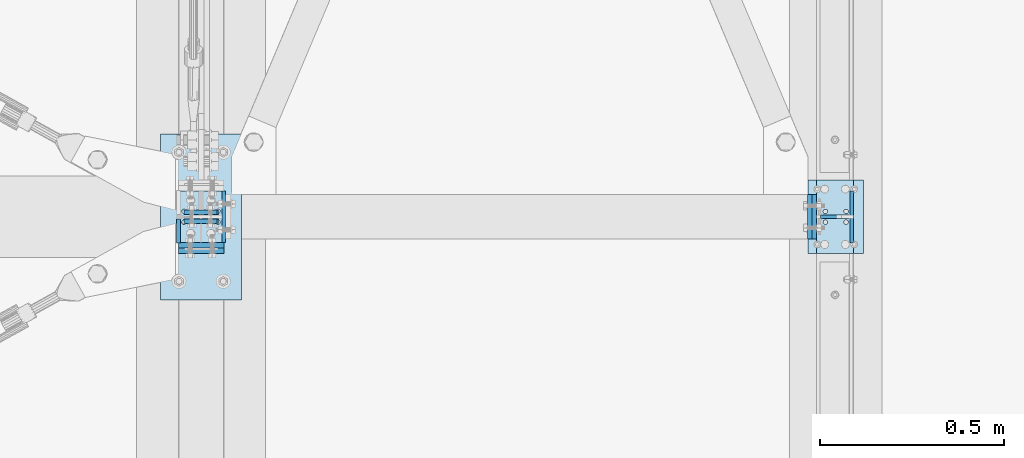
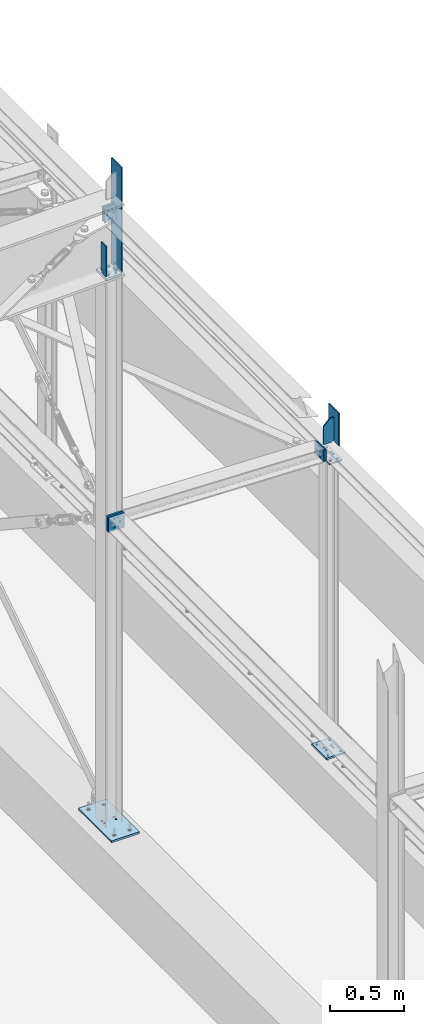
# One storey, part 46 of 476: 14 plates, 65 openings.
"""IFC2X3 building model written with IfcOpenShell, lengths in millimetres."""

import ifcopenshell
import ifcopenshell.guid

model = None  # the IFC model being written
_history = None  # IfcOwnerHistory: only IFC2X3 demands one
_inside = {}  # id of a spatial element -> (the spatial element, [elements in it])
_under = {}  # id of a project, library or spatial element -> (it, [spatial elements below it])
_declared = {}  # id of a project -> (the project, [libraries it declares])
_typed = {}  # id of a type object -> (the type object, [elements of that type])
_made_of = {}  # id of a material, layer set ... -> (it, [elements and type objects made of it])


def new_model(schema):
    """Start an empty IFC model of exactly this schema.

    Asked for "IFC4X3", IfcOpenShell would pick the latest addendum, in which some entities
    have other attributes; the version numbers below select the first issue.
    IFC2X3 requires an IfcOwnerHistory on every rooted entity: one is made here for all.
    """
    global model, _history
    if schema == "IFC4X3":
        model = ifcopenshell.file(schema_version=(4, 3, 0, 0))
    else:
        model = ifcopenshell.file(schema=schema)
    _inside.clear()
    _under.clear()
    _declared.clear()
    _typed.clear()
    _made_of.clear()
    _history = None
    if model.schema == "IFC2X3":
        org = make("IfcOrganization", Name="unknown")
        user = make(
            "IfcPersonAndOrganization",
            ThePerson=make("IfcPerson", FamilyName="unknown"),
            TheOrganization=org,
        )
        app = make(
            "IfcApplication",
            ApplicationDeveloper=org,
            Version="unknown",
            ApplicationFullName="unknown",
            ApplicationIdentifier="unknown",
        )
        _history = make(
            "IfcOwnerHistory",
            OwningUser=user,
            OwningApplication=app,
            ChangeAction="ADDED",
            CreationDate=0,
        )
    return model


def make(cls, **values):
    """One entity of the class cls with the attributes given. An attribute that is None is left unset."""
    return model.create_entity(
        cls, **{name: value for name, value in values.items() if value is not None}
    )


def entity(cls, *values):
    """Any entity or typed value of the class cls, its attributes in the order of the schema. None: left unset."""
    e = model.create_entity(cls)
    for i, value in enumerate(values):
        if value is not None:
            e[i] = value
    return e


def rooted(cls, **values):
    """An entity with a GlobalId (a new one), such as an element, a storey or a relation."""
    return make(cls, GlobalId=ifcopenshell.guid.new(), OwnerHistory=_history, **values)


def si_unit(unit_type, name, prefix=None):
    """IfcSIUnit, for example si_unit("LENGTHUNIT", "METRE", prefix="MILLI")."""
    return make("IfcSIUnit", UnitType=unit_type, Prefix=prefix, Name=name)


def converted_unit(unit_type, name, factor, base, dimensions=None, offset=None):
    """IfcConversionBasedUnit, such as the inch: factor (a typed value) times the base unit."""
    return make(
        "IfcConversionBasedUnit"
        if offset is None
        else "IfcConversionBasedUnitWithOffset",
        ConversionOffset=offset,
        Dimensions=None
        if dimensions is None
        else entity("IfcDimensionalExponents", *dimensions),
        UnitType=unit_type,
        Name=name,
        ConversionFactor=make(
            "IfcMeasureWithUnit", ValueComponent=factor, UnitComponent=base
        ),
    )


def assignment(units):
    """IfcUnitAssignment: the units of a project."""
    return None if units is None else make("IfcUnitAssignment", Units=units)


def point(xyz):
    """IfcCartesianPoint."""
    return None if xyz is None else make("IfcCartesianPoint", Coordinates=xyz)


def direction(xyz):
    """IfcDirection."""
    return None if xyz is None else make("IfcDirection", DirectionRatios=xyz)


def frame(location, z_axis=None, x_axis=None):
    """IfcAxis2Placement3D, a coordinate frame: its origin and axes. An axis left out is left unset."""
    return make(
        "IfcAxis2Placement3D",
        Location=point(location),
        Axis=direction(z_axis),
        RefDirection=direction(x_axis),
    )


def frame_2d(location, x_axis=None):
    """IfcAxis2Placement2D, a coordinate frame in the plane: its origin and x axis."""
    return make(
        "IfcAxis2Placement2D", Location=point(location), RefDirection=direction(x_axis)
    )


def origin():
    """The frame at (0, 0, 0) with its axes left unset."""
    return frame((0.0, 0.0, 0.0))


def origin_with_axes():
    """The frame at (0, 0, 0) with the z axis (0, 0, 1) and the x axis (1, 0, 0) written out."""
    return frame((0.0, 0.0, 0.0), z_axis=(0.0, 0.0, 1.0), x_axis=(1.0, 0.0, 0.0))


def origin_2d_with_axis():
    """The frame at (0, 0) in the plane with the x axis (1, 0) written out."""
    return frame_2d((0.0, 0.0), x_axis=(1.0, 0.0))


def place(relative_to, where):
    """IfcLocalPlacement: puts the frame where relative to a parent placement (None: the world)."""
    return make(
        "IfcLocalPlacement", PlacementRelTo=relative_to, RelativePlacement=where
    )


def context(
    kind, dimensions, precision=None, world=None, true_north=None, identifier=None
):
    """IfcGeometricRepresentationContext, for example the 3D "Model" context."""
    return make(
        "IfcGeometricRepresentationContext",
        ContextIdentifier=identifier,
        ContextType=kind,
        CoordinateSpaceDimension=dimensions,
        Precision=precision,
        WorldCoordinateSystem=world,
        TrueNorth=true_north,
    )


def project(units=None, contexts=None):
    """IfcProject with its units and contexts."""
    return rooted(
        "IfcProject",
        Name="project",
        RepresentationContexts=contexts,
        UnitsInContext=assignment(units),
    )


def spatial(cls, under=None, at=None, **own):
    """A site, building, storey or space (cls), placed at a placement, below another one or the project."""
    s = rooted(cls, ObjectPlacement=at, **own)
    if under is not None:
        _under.setdefault(under.id(), (under, []))[1].append(s)
    return s


def polyline(points):
    """IfcPolyline through the points."""
    return make("IfcPolyline", Points=[point(p) for p in points])


def circle_curve(where, radius):
    """IfcCircle in the frame where."""
    return make("IfcCircle", Position=where, Radius=radius)


def line_curve(start, along, magnitude):
    """IfcLine from a point along a vector."""
    return make(
        "IfcLine",
        Pnt=point(start),
        Dir=make("IfcVector", Orientation=direction(along), Magnitude=magnitude),
    )


def trimmed(basis, trim1, trim2, sense, master):
    """IfcTrimmedCurve: the piece of a basis curve between two trims."""
    return make(
        "IfcTrimmedCurve",
        BasisCurve=basis,
        Trim1=trim1,
        Trim2=trim2,
        SenseAgreement=sense,
        MasterRepresentation=master,
    )


def segment(curve, same_sense, transition):
    """IfcCompositeCurveSegment."""
    return make(
        "IfcCompositeCurveSegment",
        Transition=transition,
        SameSense=same_sense,
        ParentCurve=curve,
    )


def composite_curve(segments, self_intersect=None):
    """IfcCompositeCurve: segments joined end to end."""
    return make("IfcCompositeCurve", Segments=segments, SelfIntersect=self_intersect)


def profile(cls, at=None, kind="AREA", **sizes):
    """A parametric profile (cls). Its sizes go by their IFC names, for example OverallWidth=200.0."""
    return make(cls, ProfileType=kind, Position=at, **sizes)


def circle(**sizes):
    """IfcCircleProfileDef."""
    return profile("IfcCircleProfileDef", **sizes)


def outline(outer, holes=None, kind="AREA"):
    """IfcArbitraryClosedProfileDef: a profile drawn as a closed curve; with holes, ...WithVoids."""
    if holes is None:
        return make("IfcArbitraryClosedProfileDef", ProfileType=kind, OuterCurve=outer)
    return make(
        "IfcArbitraryProfileDefWithVoids",
        ProfileType=kind,
        OuterCurve=outer,
        InnerCurves=holes,
    )


def extrude(swept, where, along, depth):
    """IfcExtrudedAreaSolid: the profile swept, set in the frame where, extruded along a direction by depth."""
    return make(
        "IfcExtrudedAreaSolid",
        SweptArea=swept,
        Position=where,
        ExtrudedDirection=direction(along),
        Depth=depth,
    )


def shape(context_of_items, identifier, shape_type, items):
    """IfcShapeRepresentation: the items that make up one representation, for example the "Body"."""
    return make(
        "IfcShapeRepresentation",
        ContextOfItems=context_of_items,
        RepresentationIdentifier=identifier,
        RepresentationType=shape_type,
        Items=items,
    )


def material(Name=None, Category=None):
    """IfcMaterial."""
    return make("IfcMaterial", Name=Name, Category=Category)


def layer(
    of_material, thickness, ventilated=None, Name=None, Category=None, Priority=None
):
    """IfcMaterialLayer: one layer of a wall or slab, of a material (None: an air gap)."""
    return make(
        "IfcMaterialLayer",
        Material=of_material,
        LayerThickness=thickness,
        IsVentilated=ventilated,
        Name=Name,
        Category=Category,
        Priority=Priority,
    )


def layer_set(layers, Name=None):
    """IfcMaterialLayerSet."""
    return make("IfcMaterialLayerSet", MaterialLayers=layers, LayerSetName=Name)


def made_of(thing, what):
    """Note that an element or type object is made of a material, layer set ...; save() writes the relation."""
    if what is not None:
        _made_of.setdefault(what.id(), (what, []))[1].append(thing)
    return thing


def element(
    cls,
    number,
    at=None,
    inside=None,
    cuts=None,
    type_object=None,
    material=None,
    context=None,
    identifier="Body",
    shape_type=None,
    held_by="IfcProductDefinitionShape",
    body=None,
    shapes=None,
    **own,
):
    """One element of the class cls, such as IfcWall. Its Tag is "e" and its number.

    at: its placement. inside: the storey or other place that contains it. cuts: it is an
    opening in that element (IfcRelVoidsElement). A single representation is given by context,
    identifier, shape_type and body (its items); several are given by shapes. held_by: the class
    of the entity that holds the representations. save() writes the other relations.
    """
    e = rooted(cls, Tag="e%d" % number, ObjectPlacement=at, **own)
    if body is not None:
        shapes = [shape(context, identifier, shape_type, body)]
    if shapes is not None:
        e.Representation = make(held_by, Representations=shapes)
    if inside is not None:
        _inside.setdefault(inside.id(), (inside, []))[1].append(e)
    if cuts is not None:
        rooted(
            "IfcRelVoidsElement", RelatingBuildingElement=cuts, RelatedOpeningElement=e
        )
    if type_object is not None:
        _typed.setdefault(type_object.id(), (type_object, []))[1].append(e)
    return made_of(e, material)


def aggregate(whole, parts):
    """IfcRelAggregates: a whole, such as a stair, and the parts it consists of."""
    return rooted("IfcRelAggregates", RelatingObject=whole, RelatedObjects=parts)


def save(model, path):
    """Write the relations noted so far, then the file.

    IfcRelAggregates (storeys below a building ...), IfcRelContainedInSpatialStructure (elements
    in a storey), IfcRelDefinesByType, IfcRelAssociatesMaterial and IfcRelDeclares: one each for
    every whole, place, type object, material and project.
    """
    for whole, parts in _under.values():
        aggregate(whole, parts)
    for where, things in _inside.values():
        rooted(
            "IfcRelContainedInSpatialStructure",
            RelatedElements=things,
            RelatingStructure=where,
        )
    for kind, things in _typed.values():
        rooted("IfcRelDefinesByType", RelatedObjects=things, RelatingType=kind)
    for what, things in _made_of.values():
        rooted("IfcRelAssociatesMaterial", RelatedObjects=things, RelatingMaterial=what)
    for by, libraries in _declared.values():
        rooted("IfcRelDeclares", RelatingContext=by, RelatedDefinitions=libraries)
    model.write(path)


model = new_model("IFC2X3")

# Units and contexts
model_context = context("Model", 3, precision=1e-09, world=origin_with_axes())
ifc_project = project(units=[si_unit("LENGTHUNIT", "METRE", prefix="MILLI"), si_unit("AREAUNIT", "SQUARE_METRE"), si_unit("VOLUMEUNIT", "CUBIC_METRE"), converted_unit("PLANEANGLEUNIT", "DEGREE", entity("IfcPlaneAngleMeasure", 0.01745329), si_unit("PLANEANGLEUNIT", "RADIAN"), dimensions=[0, 0, 0, 0, 0, 0, 0])], contexts=[model_context])

# Site, building, storey
site_placement = place(None, origin_with_axes())
site = spatial("IfcSite", under=ifc_project, at=site_placement, Name="mKR Teilneubau & Sanierung BA1 - Ostfildern", CompositionType="ELEMENT")
building_placement = place(site_placement, origin_with_axes())
building = spatial("IfcBuilding", under=site, at=building_placement, Name="Struktur 1", CompositionType="ELEMENT")
storey_placement = place(building_placement, origin_with_axes())
storey = spatial("IfcBuildingStorey", under=building, at=storey_placement, Name="Default Storey", CompositionType="ELEMENT", Elevation=0.0)

# Plate
ifc_material = material(Name="S235JR")
ifc_layer_1 = layer(ifc_material, 10.0)
ifc_layer_set_1 = layer_set([ifc_layer_1], Name="S235JR")
plate_1_placement = place(None, frame((23723.608764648, -9835.67387897, 2465.729061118), z_axis=(1.0, 0.0, 0.0), x_axis=(0.0, 1.0, 0.0)))
element("IfcPlate", 1, at=plate_1_placement, inside=storey, material=ifc_layer_set_1, Name="Coverplate", ObjectType="Coverplate", context=model_context, shape_type="SweptSolid", body=[
    extrude(outline(polyline([(0.0, 600.270938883), (140.0, 600.270938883), (140.0, 870.270938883), (0.0, 870.270938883), (0.0, 600.270938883)])), origin_with_axes(), (0.0, 0.0, 1.0), 10.0),
])

# Plate, openings
plate_2_placement = place(None, frame((23643.608764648, -9760.67387897, 3266.000000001), z_axis=(0.0, 1.0, 0.0), x_axis=(1.0, 0.0, 0.0)))
plate_2 = element("IfcPlate", 2, at=plate_2_placement, inside=storey, material=ifc_layer_set_1, Name="-", ObjectType="-", context=model_context, shape_type="SweptSolid", body=[
    extrude(outline(polyline([(0.0, 0.0), (80.0, 0.0), (80.0, 200.0), (0.0, 200.0), (0.0, 0.0)])), origin_with_axes(), (0.0, 0.0, -1.0), 10.0),
])
opening_1_placement = place(plate_2_placement, frame((0.0, 0.0, 0.01), z_axis=(0.0, 0.0, 1.0), x_axis=(1.0, 0.0, 0.0)))
element("IfcOpeningElement", 3, at=opening_1_placement, cuts=plate_2, ObjectType="Opening", context=model_context, shape_type="SweptSolid", body=[
    extrude(outline(polyline([(0.0, 0.0), (50.0, 0.0), (0.0, 50.0), (0.0, 0.0)])), origin(), (0.0, 0.0, -1.0), 10.02),
])
opening_2_placement = place(plate_2_placement, frame((80.0, 200.0, 0.01), z_axis=(0.0, 0.0, 1.0), x_axis=(-1.0, 0.0, 0.0)))
element("IfcOpeningElement", 4, at=opening_2_placement, cuts=plate_2, ObjectType="Opening", context=model_context, shape_type="SweptSolid", body=[
    extrude(outline(polyline([(0.0, 0.0), (20.0, 0.0), (0.0, 20.0), (0.0, 0.0)])), origin(), (0.0, 0.0, -1.0), 10.02),
])

ifc_layer_2 = layer(ifc_material, 12.0)
ifc_layer_set_2 = layer_set([ifc_layer_2], Name="S235JR")
plate_3_placement = place(None, frame((23683.608764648, -9765.67387897, 2958.0), z_axis=(0.0, 0.0, 1.0), x_axis=(-1.0, 0.0, 0.0)))
plate_3 = element("IfcPlate", 5, at=plate_3_placement, inside=storey, material=ifc_layer_set_2, Name="Endplate", ObjectType="Endplate", context=model_context, shape_type="SweptSolid", body=[
    extrude(outline(polyline([(-50.0, -100.0), (50.0, -100.0), (50.0, 100.0), (-50.0, 100.0), (-50.0, -100.0)])), origin_with_axes(), (0.0, 0.0, 1.0), 12.0),
])
opening_3_placement = place(plate_3_placement, frame((26.0, -14.5, 12.5), z_axis=(0.0, 0.0, -1.0), x_axis=(1.0, 0.0, 0.0)))
element("IfcOpeningElement", 6, at=opening_3_placement, cuts=plate_3, ObjectType="Opening", context=model_context, shape_type="SweptSolid", body=[
    extrude(circle(Radius=6.001, at=origin_2d_with_axis()), origin(), (0.0, 0.0, 1.0), 13.0),
])
opening_4_placement = place(plate_3_placement, frame((-30.0, -14.5, 12.5), z_axis=(0.0, 0.0, -1.0), x_axis=(1.0, 0.0, 0.0)))
element("IfcOpeningElement", 7, at=opening_4_placement, cuts=plate_3, ObjectType="Opening", context=model_context, shape_type="SweptSolid", body=[
    extrude(circle(Radius=6.001, at=origin_2d_with_axis()), origin(), (0.0, 0.0, 1.0), 13.0),
])
opening_5_placement = place(plate_3_placement, frame((-30.0, 14.5, 12.5), z_axis=(0.0, 0.0, -1.0), x_axis=(1.0, 0.0, 0.0)))
element("IfcOpeningElement", 8, at=opening_5_placement, cuts=plate_3, ObjectType="Opening", context=model_context, shape_type="SweptSolid", body=[
    extrude(circle(Radius=6.001, at=origin_2d_with_axis()), origin(), (0.0, 0.0, 1.0), 13.0),
])
opening_6_placement = place(plate_3_placement, frame((26.0, 14.5, 12.5), z_axis=(0.0, 0.0, -1.0), x_axis=(1.0, 0.0, 0.0)))
element("IfcOpeningElement", 9, at=opening_6_placement, cuts=plate_3, ObjectType="Opening", context=model_context, shape_type="SweptSolid", body=[
    extrude(circle(Radius=6.001, at=origin_2d_with_axis()), origin(), (0.0, 0.0, 1.0), 13.0),
])
opening_7_placement = place(plate_3_placement, frame((-50.0, 50.001, 0.0), z_axis=(0.0, -1.0, 0.0), x_axis=(1.0, 0.0, 0.0)))
element("IfcOpeningElement", 10, at=opening_7_placement, cuts=plate_3, ObjectType="Opening", context=model_context, shape_type="SweptSolid", body=[
    extrude(outline(polyline([(0.0, 0.0), (4.0, 0.0), (0.0, 4.0), (0.0, 0.0)])), origin(), (0.0, 0.0, 1.0), 100.022),
])
opening_8_placement = place(plate_3_placement, frame((28.0, 67.999, -0.5), z_axis=(0.0, 0.0, -1.0), x_axis=(-1.0, 0.0, 0.0)))
element("IfcOpeningElement", 11, at=opening_8_placement, cuts=plate_3, ObjectType="Opening", context=model_context, shape_type="SweptSolid", body=[
    extrude(circle(Radius=7.001, at=frame_2d((0.0, 7.001), x_axis=(1.0, 0.0))), origin(), (0.0, 0.0, -1.0), 13.0),
])
opening_9_placement = place(plate_3_placement, frame((28.0, -67.999, -0.5), z_axis=(0.0, 0.0, -1.0), x_axis=(-1.0, 0.0, 0.0)))
element("IfcOpeningElement", 12, at=opening_9_placement, cuts=plate_3, ObjectType="Opening", context=model_context, shape_type="SweptSolid", body=[
    extrude(circle(Radius=7.001, at=frame_2d((0.0, -7.001), x_axis=(1.0, 0.0))), origin(), (0.0, 0.0, -1.0), 13.0),
])
opening_10_placement = place(plate_3_placement, frame((-28.0, 67.999, -0.5), z_axis=(0.0, 0.0, -1.0), x_axis=(-1.0, 0.0, 0.0)))
element("IfcOpeningElement", 13, at=opening_10_placement, cuts=plate_3, ObjectType="Opening", context=model_context, shape_type="SweptSolid", body=[
    extrude(circle(Radius=7.001, at=frame_2d((0.0, 7.001), x_axis=(1.0, 0.0))), origin(), (0.0, 0.0, -1.0), 13.0),
])
opening_11_placement = place(plate_3_placement, frame((-28.0, -67.999, -0.5), z_axis=(0.0, 0.0, -1.0), x_axis=(-1.0, 0.0, 0.0)))
element("IfcOpeningElement", 14, at=opening_11_placement, cuts=plate_3, ObjectType="Opening", context=model_context, shape_type="SweptSolid", body=[
    extrude(circle(Radius=7.001, at=frame_2d((0.0, -7.001), x_axis=(1.0, 0.0))), origin(), (0.0, 0.0, -1.0), 13.0),
])

ifc_layer_3 = layer(ifc_material, 15.0)
ifc_layer_set_3 = layer_set([ifc_layer_3], Name="S235JR")
plate_4_placement = place(None, frame((22075.608764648, -9540.67387897, 545.0), z_axis=(0.0, 0.0, -1.0), x_axis=(0.0, -1.0, 0.0)))
plate_4 = element("IfcPlate", 15, at=plate_4_placement, inside=storey, material=ifc_layer_set_3, Name="Baseplate", ObjectType="Baseplate", context=model_context, shape_type="SweptSolid", body=[
    extrude(outline(polyline([(0.0, 0.0), (450.0, 0.0), (450.0, 220.0), (0.0, 220.0), (0.0, 0.0)])), origin_with_axes(), (0.0, 0.0, 1.0), 15.0),
])
opening_12_placement = place(plate_4_placement, frame((50.0, 170.0, 15.5), z_axis=(0.0, 0.0, -1.0), x_axis=(1.0, 0.0, 0.0)))
element("IfcOpeningElement", 16, at=opening_12_placement, cuts=plate_4, ObjectType="Opening", context=model_context, shape_type="SweptSolid", body=[
    extrude(circle(Radius=11.001, at=frame_2d((350.0, 120.0), x_axis=(1.0, 0.0))), origin(), (0.0, 0.0, 1.0), 16.0),
])
opening_13_placement = place(plate_4_placement, frame((50.0, 170.0, 15.5), z_axis=(0.0, 0.0, -1.0), x_axis=(1.0, 0.0, 0.0)))
element("IfcOpeningElement", 17, at=opening_13_placement, cuts=plate_4, ObjectType="Opening", context=model_context, shape_type="SweptSolid", body=[
    extrude(circle(Radius=11.001, at=frame_2d((0.0, 120.0), x_axis=(1.0, 0.0))), origin(), (0.0, 0.0, 1.0), 16.0),
])
opening_14_placement = place(plate_4_placement, frame((50.0, 170.0, 15.5), z_axis=(0.0, 0.0, -1.0), x_axis=(1.0, 0.0, 0.0)))
element("IfcOpeningElement", 18, at=opening_14_placement, cuts=plate_4, ObjectType="Opening", context=model_context, shape_type="SweptSolid", body=[
    extrude(circle(Radius=11.001, at=frame_2d((350.0, 0.0), x_axis=(1.0, 0.0))), origin(), (0.0, 0.0, 1.0), 16.0),
])
opening_15_placement = place(plate_4_placement, frame((50.0, 170.0, 15.5), z_axis=(0.0, 0.0, -1.0), x_axis=(1.0, 0.0, 0.0)))
element("IfcOpeningElement", 19, at=opening_15_placement, cuts=plate_4, ObjectType="Opening", context=model_context, shape_type="SweptSolid", body=[
    extrude(circle(Radius=11.001, at=origin_2d_with_axis()), origin(), (0.0, 0.0, 1.0), 16.0),
])
opening_16_placement = place(plate_4_placement, frame((210.25, 156.0, 15.5), z_axis=(0.0, 0.0, -1.0), x_axis=(0.0, -1.0, 0.0)))
element("IfcOpeningElement", 20, at=opening_16_placement, cuts=plate_4, ObjectType="Opening", context=model_context, shape_type="SweptSolid", body=[
    extrude(circle(Radius=6.001, at=origin_2d_with_axis()), origin(), (0.0, 0.0, 1.0), 16.0),
])
opening_17_placement = place(plate_4_placement, frame((210.25, 64.0, 15.5), z_axis=(0.0, 0.0, -1.0), x_axis=(0.0, -1.0, 0.0)))
element("IfcOpeningElement", 21, at=opening_17_placement, cuts=plate_4, ObjectType="Opening", context=model_context, shape_type="SweptSolid", body=[
    extrude(circle(Radius=6.001, at=origin_2d_with_axis()), origin(), (0.0, 0.0, 1.0), 16.0),
])
opening_18_placement = place(plate_4_placement, frame((239.75, 64.0, 15.5), z_axis=(0.0, 0.0, -1.0), x_axis=(0.0, -1.0, 0.0)))
element("IfcOpeningElement", 22, at=opening_18_placement, cuts=plate_4, ObjectType="Opening", context=model_context, shape_type="SweptSolid", body=[
    extrude(circle(Radius=6.001, at=origin_2d_with_axis()), origin(), (0.0, 0.0, 1.0), 16.0),
])
opening_19_placement = place(plate_4_placement, frame((239.75, 156.0, 15.5), z_axis=(0.0, 0.0, -1.0), x_axis=(0.0, -1.0, 0.0)))
element("IfcOpeningElement", 23, at=opening_19_placement, cuts=plate_4, ObjectType="Opening", context=model_context, shape_type="SweptSolid", body=[
    extrude(circle(Radius=6.001, at=origin_2d_with_axis()), origin(), (0.0, 0.0, 1.0), 16.0),
])

plate_5_placement = place(None, frame((21965.608780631, -9865.67387897, 3068.000017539), z_axis=(0.0, 1.0, 0.0), x_axis=(0.0, 0.0, -1.0)))
plate_5 = element("IfcPlate", 24, at=plate_5_placement, inside=storey, material=ifc_layer_set_3, Name="Endplate#1", ObjectType="Endplate#1", context=model_context, shape_type="SweptSolid", body=[
    extrude(outline(polyline([(-62.0, -62.0), (62.0, -62.0), (62.0, 62.0), (-62.0, 62.0), (-62.0, -62.0)])), origin_with_axes(), (0.0, 0.0, 1.0), 15.0),
])
opening_20_placement = place(plate_5_placement, frame((37.0, 14.5, 15.5), z_axis=(0.0, 0.0, -1.0), x_axis=(-1.0, 0.0, 0.0)))
element("IfcOpeningElement", 25, at=opening_20_placement, cuts=plate_5, ObjectType="Opening", context=model_context, shape_type="SweptSolid", body=[
    extrude(circle(Radius=6.001, at=origin_2d_with_axis()), origin(), (0.0, 0.0, 1.0), 16.0),
])
opening_21_placement = place(plate_5_placement, frame((-37.0, 14.5, 15.5), z_axis=(0.0, 0.0, -1.0), x_axis=(-1.0, 0.0, 0.0)))
element("IfcOpeningElement", 26, at=opening_21_placement, cuts=plate_5, ObjectType="Opening", context=model_context, shape_type="SweptSolid", body=[
    extrude(circle(Radius=6.001, at=origin_2d_with_axis()), origin(), (0.0, 0.0, 1.0), 16.0),
])
opening_22_placement = place(plate_5_placement, frame((-37.0, -14.5, 15.5), z_axis=(0.0, 0.0, -1.0), x_axis=(-1.0, 0.0, 0.0)))
element("IfcOpeningElement", 27, at=opening_22_placement, cuts=plate_5, ObjectType="Opening", context=model_context, shape_type="SweptSolid", body=[
    extrude(circle(Radius=6.001, at=origin_2d_with_axis()), origin(), (0.0, 0.0, 1.0), 16.0),
])
opening_23_placement = place(plate_5_placement, frame((37.0, -14.5, 15.5), z_axis=(0.0, 0.0, -1.0), x_axis=(-1.0, 0.0, 0.0)))
element("IfcOpeningElement", 28, at=opening_23_placement, cuts=plate_5, ObjectType="Opening", context=model_context, shape_type="SweptSolid", body=[
    extrude(circle(Radius=6.001, at=origin_2d_with_axis()), origin(), (0.0, 0.0, 1.0), 16.0),
])
opening_24_placement = place(plate_5_placement, frame((0.0, 30.0, 15.5), z_axis=(0.0, 0.0, -1.0), x_axis=(-1.0, 0.0, 0.0)))
element("IfcOpeningElement", 29, at=opening_24_placement, cuts=plate_5, ObjectType="Opening", context=model_context, shape_type="SweptSolid", body=[
    extrude(circle(Radius=7.001, at=origin_2d_with_axis()), origin(), (0.0, 0.0, 1.0), 16.0),
])
opening_25_placement = place(plate_5_placement, frame((0.0, -30.0, 15.5), z_axis=(0.0, 0.0, -1.0), x_axis=(0.0, -1.0, 0.0)))
element("IfcOpeningElement", 30, at=opening_25_placement, cuts=plate_5, ObjectType="Opening", context=model_context, shape_type="SweptSolid", body=[
    extrude(circle(Radius=7.001, at=origin_2d_with_axis()), origin(), (0.0, 0.0, 1.0), 16.0),
])

plate_6_placement = place(None, frame((21965.608764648, -9835.67387897, 3068.000017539), z_axis=(0.0, -1.0, 0.0), x_axis=(-1.0, 0.0, 0.0)))
plate_6 = element("IfcPlate", 31, at=plate_6_placement, inside=storey, material=ifc_layer_set_3, Name="T-plate", ObjectType="T-plate", context=model_context, shape_type="SweptSolid", body=[
    extrude(outline(polyline([(-62.0, -62.0), (62.0, -62.0), (62.0, 62.0), (-62.0, 62.0), (-62.0, -62.0)])), origin_with_axes(), (0.0, 0.0, 1.0), 15.0),
])
opening_26_placement = place(plate_6_placement, frame((29.999984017, 0.0, -0.5), z_axis=(0.0, 0.0, 1.0), x_axis=(0.0, -1.0, 0.0)))
element("IfcOpeningElement", 32, at=opening_26_placement, cuts=plate_6, ObjectType="Opening", context=model_context, shape_type="SweptSolid", body=[
    extrude(circle(Radius=7.001, at=origin_2d_with_axis()), origin(), (0.0, 0.0, 1.0), 16.0),
])
opening_27_placement = place(plate_6_placement, frame((-30.000015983, 0.0, -0.5), z_axis=(0.0, 0.0, 1.0), x_axis=(-1.0, 0.0, 0.0)))
element("IfcOpeningElement", 33, at=opening_27_placement, cuts=plate_6, ObjectType="Opening", context=model_context, shape_type="SweptSolid", body=[
    extrude(circle(Radius=7.001, at=origin_2d_with_axis()), origin(), (0.0, 0.0, 1.0), 16.0),
])

# Plate
plate_7_placement = place(None, frame((22022.108764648, -9835.67387897, 5095.440131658), z_axis=(1.0, 0.0, 0.0), x_axis=(0.0, 1.0, 0.0)))
element("IfcPlate", 34, at=plate_7_placement, inside=storey, material=ifc_layer_set_1, Name="Coverplate", ObjectType="Coverplate", context=model_context, shape_type="SweptSolid", body=[
    extrude(outline(polyline([(0.0, 0.0), (140.0, 0.0), (140.0, 870.270938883), (0.0, 870.270938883), (0.0, 0.0)])), origin_with_axes(), (0.0, 0.0, 1.0), 10.0),
])

# Plate, openings
ifc_layer_4 = layer(ifc_material, 20.0)
ifc_layer_set_4 = layer_set([ifc_layer_4], Name="S235JR")
plate_8_placement = place(None, frame((22027.111021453, -9835.67387897, 5070.581445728), z_axis=(-0.030041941, 0.0, 0.999548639), x_axis=(0.0, 1.0, 0.0)))
plate_8 = element("IfcPlate", 35, at=plate_8_placement, inside=storey, material=ifc_layer_set_4, Name="Endplate", ObjectType="Endplate", context=model_context, shape_type="SweptSolid", body=[
    extrude(outline(polyline([(0.0, 0.0), (140.0, 0.0), (140.0, 123.060058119), (0.0, 123.060058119), (0.0, 0.0)])), origin_with_axes(), (0.0, 0.0, 1.0), 20.0),
])
opening_28_placement = place(plate_8_placement, frame((84.75, 107.556219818, 20.5), z_axis=(0.0, 0.0, -1.0), x_axis=(0.0, 1.0, 0.0)))
element("IfcOpeningElement", 36, at=opening_28_placement, cuts=plate_8, ObjectType="Opening", context=model_context, shape_type="SweptSolid", body=[
    extrude(circle(Radius=6.001, at=origin_2d_with_axis()), origin(), (0.0, 0.0, 1.0), 21.0),
])
opening_29_placement = place(plate_8_placement, frame((84.75, 15.503838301, 20.5), z_axis=(0.0, 0.0, -1.0), x_axis=(0.0, 1.0, 0.0)))
element("IfcOpeningElement", 37, at=opening_29_placement, cuts=plate_8, ObjectType="Opening", context=model_context, shape_type="SweptSolid", body=[
    extrude(circle(Radius=6.001, at=origin_2d_with_axis()), origin(), (0.0, 0.0, 1.0), 21.0),
])
opening_30_placement = place(plate_8_placement, frame((55.25, 15.503838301, 20.5), z_axis=(0.0, 0.0, -1.0), x_axis=(0.0, 1.0, 0.0)))
element("IfcOpeningElement", 38, at=opening_30_placement, cuts=plate_8, ObjectType="Opening", context=model_context, shape_type="SweptSolid", body=[
    extrude(circle(Radius=6.001, at=origin_2d_with_axis()), origin(), (0.0, 0.0, 1.0), 21.0),
])
opening_31_placement = place(plate_8_placement, frame((55.25, 107.556219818, 20.5), z_axis=(0.0, 0.0, -1.0), x_axis=(0.0, 1.0, 0.0)))
element("IfcOpeningElement", 39, at=opening_31_placement, cuts=plate_8, ObjectType="Opening", context=model_context, shape_type="SweptSolid", body=[
    extrude(circle(Radius=6.001, at=origin_2d_with_axis()), origin(), (0.0, 0.0, 1.0), 21.0),
])
opening_32_placement = place(plate_8_placement, frame((107.999, 89.03, -0.5), z_axis=(0.0, 0.0, -1.0), x_axis=(-1.0, 0.0, 0.0)))
element("IfcOpeningElement", 40, at=opening_32_placement, cuts=plate_8, ObjectType="Opening", context=model_context, shape_type="SweptSolid", body=[
    extrude(circle(Radius=7.001, at=frame_2d((-7.001, 0.0), x_axis=(1.0, 0.0))), origin(), (0.0, 0.0, -1.0), 21.0),
])
opening_33_placement = place(plate_8_placement, frame((17.999, 34.03, -0.5), z_axis=(0.0, 0.0, -1.0), x_axis=(-1.0, 0.0, 0.0)))
element("IfcOpeningElement", 41, at=opening_33_placement, cuts=plate_8, ObjectType="Opening", context=model_context, shape_type="SweptSolid", body=[
    extrude(circle(Radius=7.001, at=frame_2d((-7.001, 0.0), x_axis=(1.0, 0.0))), origin(), (0.0, 0.0, -1.0), 21.0),
])
opening_34_placement = place(plate_8_placement, frame((107.999, 34.03, -0.5), z_axis=(0.0, 0.0, -1.0), x_axis=(-1.0, 0.0, 0.0)))
element("IfcOpeningElement", 42, at=opening_34_placement, cuts=plate_8, ObjectType="Opening", context=model_context, shape_type="SweptSolid", body=[
    extrude(circle(Radius=7.001, at=frame_2d((-7.001, 0.0), x_axis=(1.0, 0.0))), origin(), (0.0, 0.0, -1.0), 21.0),
])
opening_35_placement = place(plate_8_placement, frame((17.999, 89.03, -0.5), z_axis=(0.0, 0.0, -1.0), x_axis=(-1.0, 0.0, 0.0)))
element("IfcOpeningElement", 43, at=opening_35_placement, cuts=plate_8, ObjectType="Opening", context=model_context, shape_type="SweptSolid", body=[
    extrude(circle(Radius=7.001, at=frame_2d((-7.001, 0.0), x_axis=(1.0, 0.0))), origin(), (0.0, 0.0, -1.0), 21.0),
])

plate_9_placement = place(None, frame((21909.108764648, -9771.67387897, 5107.553116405), z_axis=(-1.0, 0.0, 0.0), x_axis=(0.0, -1.0, 0.0)))
plate_9 = element("IfcPlate", 44, at=plate_9_placement, inside=storey, material=ifc_layer_set_1, Name="Stiffener#2", ObjectType="Stiffener#2", context=model_context, shape_type="SweptSolid", body=[
    extrude(outline(polyline([(0.0, 0.0), (65.0, 0.0), (65.0, 250.0), (0.0, 250.0), (0.0, 0.0)])), origin_with_axes(), (0.0, 0.0, 1.0), 10.0),
])
opening_36_placement = place(plate_9_placement, frame((0.0, 0.0, -0.01), z_axis=(0.0, 0.0, 1.0), x_axis=(1.0, 0.0, 0.0)))
element("IfcOpeningElement", 45, at=opening_36_placement, cuts=plate_9, ObjectType="Opening", context=model_context, shape_type="SweptSolid", body=[
    extrude(outline(composite_curve([segment(trimmed(line_curve((0.0, 0.0), (1.0, 0.0), 25.0), [point((0.0, 0.0))], [point((25.0, 0.0))], True, "CARTESIAN"), True, "CONTINUOUS"), segment(trimmed(circle_curve(frame_2d((25.0, 25.0), x_axis=(-1.0, 0.0)), 25.0), [point((25.0, 0.0))], [point((0.0, 25.0))], False, "CARTESIAN"), True, "CONTINUOUS"), segment(trimmed(line_curve((0.0, 25.0), (0.0, -1.0), 25.0), [point((0.0, 25.0))], [point((0.0, 0.0))], True, "CARTESIAN"), True, "CONTINUOUS")], self_intersect=False)), origin(), (0.0, 0.0, 1.0), 10.02),
])
opening_37_placement = place(plate_9_placement, frame((24.0, 22.198767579, -0.5), z_axis=(0.0, 0.0, 1.0), x_axis=(0.0, -1.0, 0.0)))
element("IfcOpeningElement", 46, at=opening_37_placement, cuts=plate_9, ObjectType="Opening", context=model_context, shape_type="SweptSolid", body=[
    extrude(circle(Radius=7.001, at=frame_2d((7.0, -7.0), x_axis=(1.0, 0.0))), origin(), (0.0, 0.0, 1.0), 11.0),
])

plate_10_placement = place(None, frame((22008.725869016, -9771.67387897, 5635.31111627), z_axis=(0.0, -1.0, 0.0), x_axis=(-0.999548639, 0.0, -0.030041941)))
plate_10 = element("IfcPlate", 47, at=plate_10_placement, inside=storey, material=ifc_layer_set_2, Name="Endplate", ObjectType="Endplate", context=model_context, shape_type="SweptSolid", body=[
    extrude(outline(polyline([(0.0, 0.0), (90.0, 0.0), (90.0, 124.0), (0.0, 124.0), (0.0, 0.0)])), origin_with_axes(), (0.0, 0.0, 1.0), 12.0),
])
opening_38_placement = place(plate_10_placement, frame((20.0, 62.0, -0.5), z_axis=(0.0, 0.0, 1.0), x_axis=(0.0, -1.0, 0.0)))
element("IfcOpeningElement", 48, at=opening_38_placement, cuts=plate_10, ObjectType="Opening", context=model_context, shape_type="SweptSolid", body=[
    extrude(circle(Radius=7.001, at=origin_2d_with_axis()), origin(), (0.0, 0.0, 1.0), 13.0),
])
opening_39_placement = place(plate_10_placement, frame((70.0, 62.0, -0.5), z_axis=(0.0, 0.0, 1.0), x_axis=(0.0, -1.0, 0.0)))
element("IfcOpeningElement", 49, at=opening_39_placement, cuts=plate_10, ObjectType="Opening", context=model_context, shape_type="SweptSolid", body=[
    extrude(circle(Radius=7.001, at=origin_2d_with_axis()), origin(), (0.0, 0.0, 1.0), 13.0),
])
opening_40_placement = place(plate_10_placement, frame((59.5, 99.0, -0.5), z_axis=(0.0, 0.0, 1.0), x_axis=(0.0, -1.0, 0.0)))
element("IfcOpeningElement", 50, at=opening_40_placement, cuts=plate_10, ObjectType="Opening", context=model_context, shape_type="SweptSolid", body=[
    extrude(circle(Radius=6.001, at=origin_2d_with_axis()), origin(), (0.0, 0.0, 1.0), 13.0),
])
opening_41_placement = place(plate_10_placement, frame((59.5, 25.0, -0.5), z_axis=(0.0, 0.0, 1.0), x_axis=(0.0, -1.0, 0.0)))
element("IfcOpeningElement", 51, at=opening_41_placement, cuts=plate_10, ObjectType="Opening", context=model_context, shape_type="SweptSolid", body=[
    extrude(circle(Radius=6.001, at=origin_2d_with_axis()), origin(), (0.0, 0.0, 1.0), 13.0),
])
opening_42_placement = place(plate_10_placement, frame((30.5, 25.0, -0.5), z_axis=(0.0, 0.0, 1.0), x_axis=(0.0, -1.0, 0.0)))
element("IfcOpeningElement", 52, at=opening_42_placement, cuts=plate_10, ObjectType="Opening", context=model_context, shape_type="SweptSolid", body=[
    extrude(circle(Radius=6.001, at=origin_2d_with_axis()), origin(), (0.0, 0.0, 1.0), 13.0),
])
opening_43_placement = place(plate_10_placement, frame((30.5, 99.0, -0.5), z_axis=(0.0, 0.0, 1.0), x_axis=(0.0, -1.0, 0.0)))
element("IfcOpeningElement", 53, at=opening_43_placement, cuts=plate_10, ObjectType="Opening", context=model_context, shape_type="SweptSolid", body=[
    extrude(circle(Radius=6.001, at=origin_2d_with_axis()), origin(), (0.0, 0.0, 1.0), 13.0),
])

plate_11_placement = place(None, frame((21918.766491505, -9759.67387897, 5632.607341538), z_axis=(0.0, 1.0, 0.0), x_axis=(0.999548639, 0.0, 0.030041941)))
plate_11 = element("IfcPlate", 54, at=plate_11_placement, inside=storey, material=ifc_layer_set_2, Name="Endplate", ObjectType="Endplate", context=model_context, shape_type="SweptSolid", body=[
    extrude(outline(polyline([(0.0, 0.0), (90.0, 0.0), (90.0, 124.0), (0.0, 124.0), (0.0, 0.0)])), origin_with_axes(), (0.0, 0.0, 1.0), 12.0),
])
opening_44_placement = place(plate_11_placement, frame((20.0, 62.0, 12.5), z_axis=(0.0, 0.0, -1.0), x_axis=(0.0, -1.0, 0.0)))
element("IfcOpeningElement", 55, at=opening_44_placement, cuts=plate_11, ObjectType="Opening", context=model_context, shape_type="SweptSolid", body=[
    extrude(circle(Radius=7.001, at=origin_2d_with_axis()), origin(), (0.0, 0.0, 1.0), 13.0),
])
opening_45_placement = place(plate_11_placement, frame((70.0, 62.0, 12.5), z_axis=(0.0, 0.0, -1.0), x_axis=(0.0, -1.0, 0.0)))
element("IfcOpeningElement", 56, at=opening_45_placement, cuts=plate_11, ObjectType="Opening", context=model_context, shape_type="SweptSolid", body=[
    extrude(circle(Radius=7.001, at=origin_2d_with_axis()), origin(), (0.0, 0.0, 1.0), 13.0),
])
opening_46_placement = place(plate_11_placement, frame((30.5, 99.0, -0.5), z_axis=(0.0, 0.0, 1.0), x_axis=(0.0, 1.0, 0.0)))
element("IfcOpeningElement", 57, at=opening_46_placement, cuts=plate_11, ObjectType="Opening", context=model_context, shape_type="SweptSolid", body=[
    extrude(circle(Radius=6.001, at=origin_2d_with_axis()), origin(), (0.0, 0.0, 1.0), 13.0),
])
opening_47_placement = place(plate_11_placement, frame((30.5, 25.0, -0.5), z_axis=(0.0, 0.0, 1.0), x_axis=(0.0, 1.0, 0.0)))
element("IfcOpeningElement", 58, at=opening_47_placement, cuts=plate_11, ObjectType="Opening", context=model_context, shape_type="SweptSolid", body=[
    extrude(circle(Radius=6.001, at=origin_2d_with_axis()), origin(), (0.0, 0.0, 1.0), 13.0),
])
opening_48_placement = place(plate_11_placement, frame((59.5, 25.0, -0.5), z_axis=(0.0, 0.0, 1.0), x_axis=(0.0, 1.0, 0.0)))
element("IfcOpeningElement", 59, at=opening_48_placement, cuts=plate_11, ObjectType="Opening", context=model_context, shape_type="SweptSolid", body=[
    extrude(circle(Radius=6.001, at=origin_2d_with_axis()), origin(), (0.0, 0.0, 1.0), 13.0),
])
opening_49_placement = place(plate_11_placement, frame((59.5, 99.0, -0.5), z_axis=(0.0, 0.0, 1.0), x_axis=(0.0, 1.0, 0.0)))
element("IfcOpeningElement", 60, at=opening_49_placement, cuts=plate_11, ObjectType="Opening", context=model_context, shape_type="SweptSolid", body=[
    extrude(circle(Radius=6.001, at=origin_2d_with_axis()), origin(), (0.0, 0.0, 1.0), 13.0),
])

plate_12_placement = place(None, frame((23760.608764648, -9665.67387897, 540.0), z_axis=(0.0, 0.0, -1.0), x_axis=(0.0, -1.0, 0.0)))
plate_12 = element("IfcPlate", 61, at=plate_12_placement, inside=storey, material=ifc_layer_set_3, Name="Baseplate", ObjectType="Baseplate", context=model_context, shape_type="SweptSolid", body=[
    extrude(outline(polyline([(0.0, 0.0), (200.0, 0.0), (200.0, 150.0), (0.0, 150.0), (0.0, 0.0)])), origin_with_axes(), (0.0, 0.0, 1.0), 15.0),
])
opening_50_placement = place(plate_12_placement, frame((85.5, 103.0, 15.5), z_axis=(0.0, 0.0, -1.0), x_axis=(0.0, -1.0, 0.0)))
element("IfcOpeningElement", 62, at=opening_50_placement, cuts=plate_12, ObjectType="Opening", context=model_context, shape_type="SweptSolid", body=[
    extrude(circle(Radius=6.001, at=origin_2d_with_axis()), origin(), (0.0, 0.0, 1.0), 16.0),
])
opening_51_placement = place(plate_12_placement, frame((85.5, 47.0, 15.5), z_axis=(0.0, 0.0, -1.0), x_axis=(0.0, -1.0, 0.0)))
element("IfcOpeningElement", 63, at=opening_51_placement, cuts=plate_12, ObjectType="Opening", context=model_context, shape_type="SweptSolid", body=[
    extrude(circle(Radius=6.001, at=origin_2d_with_axis()), origin(), (0.0, 0.0, 1.0), 16.0),
])
opening_52_placement = place(plate_12_placement, frame((114.5, 47.0, 15.5), z_axis=(0.0, 0.0, -1.0), x_axis=(0.0, -1.0, 0.0)))
element("IfcOpeningElement", 64, at=opening_52_placement, cuts=plate_12, ObjectType="Opening", context=model_context, shape_type="SweptSolid", body=[
    extrude(circle(Radius=6.001, at=origin_2d_with_axis()), origin(), (0.0, 0.0, 1.0), 16.0),
])
opening_53_placement = place(plate_12_placement, frame((114.5, 103.0, 15.5), z_axis=(0.0, 0.0, -1.0), x_axis=(0.0, -1.0, 0.0)))
element("IfcOpeningElement", 65, at=opening_53_placement, cuts=plate_12, ObjectType="Opening", context=model_context, shape_type="SweptSolid", body=[
    extrude(circle(Radius=6.001, at=origin_2d_with_axis()), origin(), (0.0, 0.0, 1.0), 16.0),
])
opening_54_placement = place(plate_12_placement, frame((100.0, 75.0, 15.5), z_axis=(0.0, 0.0, -1.0), x_axis=(1.0, 0.0, 0.0)))
element("IfcOpeningElement", 66, at=opening_54_placement, cuts=plate_12, ObjectType="Opening", context=model_context, shape_type="SweptSolid", body=[
    extrude(circle(Radius=6.001, at=frame_2d((75.0, 50.0), x_axis=(1.0, 0.0))), origin(), (0.0, 0.0, 1.0), 16.0),
])
opening_55_placement = place(plate_12_placement, frame((100.0, 75.0, 15.5), z_axis=(0.0, 0.0, -1.0), x_axis=(1.0, 0.0, 0.0)))
element("IfcOpeningElement", 67, at=opening_55_placement, cuts=plate_12, ObjectType="Opening", context=model_context, shape_type="SweptSolid", body=[
    extrude(circle(Radius=6.001, at=frame_2d((-75.0, 50.0), x_axis=(1.0, 0.0))), origin(), (0.0, 0.0, 1.0), 16.0),
])
opening_56_placement = place(plate_12_placement, frame((100.0, 75.0, 15.5), z_axis=(0.0, 0.0, -1.0), x_axis=(1.0, 0.0, 0.0)))
element("IfcOpeningElement", 68, at=opening_56_placement, cuts=plate_12, ObjectType="Opening", context=model_context, shape_type="SweptSolid", body=[
    extrude(circle(Radius=6.001, at=frame_2d((75.0, -50.0), x_axis=(1.0, 0.0))), origin(), (0.0, 0.0, 1.0), 16.0),
])
opening_57_placement = place(plate_12_placement, frame((100.0, 75.0, 15.5), z_axis=(0.0, 0.0, -1.0), x_axis=(1.0, 0.0, 0.0)))
element("IfcOpeningElement", 69, at=opening_57_placement, cuts=plate_12, ObjectType="Opening", context=model_context, shape_type="SweptSolid", body=[
    extrude(circle(Radius=6.001, at=frame_2d((-75.0, -50.0), x_axis=(1.0, 0.0))), origin(), (0.0, 0.0, 1.0), 16.0),
])

plate_13_placement = place(None, frame((23609.608764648, -9765.67387897, 3020.209302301), z_axis=(1.0, 0.0, 0.0), x_axis=(0.0, 0.0, -1.0)))
plate_13 = element("IfcPlate", 70, at=plate_13_placement, inside=storey, material=ifc_layer_set_2, Name="Endplate#1", ObjectType="Endplate#1", context=model_context, shape_type="SweptSolid", body=[
    extrude(outline(polyline([(-52.024078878, -60.0), (52.024078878, -60.0), (52.024078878, 60.0), (-52.024078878, 60.0), (-52.024078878, -60.0)])), origin_with_axes(), (0.0, 0.0, 1.0), 12.0),
])
opening_58_placement = place(plate_13_placement, frame((-37.020699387, -14.5, 12.5), z_axis=(0.0, 0.0, -1.0), x_axis=(1.0, 0.0, 0.0)))
element("IfcOpeningElement", 71, at=opening_58_placement, cuts=plate_13, ObjectType="Opening", context=model_context, shape_type="SweptSolid", body=[
    extrude(circle(Radius=6.001, at=origin_2d_with_axis()), origin(), (0.0, 0.0, 1.0), 13.0),
])
opening_59_placement = place(plate_13_placement, frame((37.020699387, -14.5, 12.5), z_axis=(0.0, 0.0, -1.0), x_axis=(1.0, 0.0, 0.0)))
element("IfcOpeningElement", 72, at=opening_59_placement, cuts=plate_13, ObjectType="Opening", context=model_context, shape_type="SweptSolid", body=[
    extrude(circle(Radius=6.001, at=origin_2d_with_axis()), origin(), (0.0, 0.0, 1.0), 13.0),
])
opening_60_placement = place(plate_13_placement, frame((37.020699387, 14.5, 12.5), z_axis=(0.0, 0.0, -1.0), x_axis=(1.0, 0.0, 0.0)))
element("IfcOpeningElement", 73, at=opening_60_placement, cuts=plate_13, ObjectType="Opening", context=model_context, shape_type="SweptSolid", body=[
    extrude(circle(Radius=6.001, at=origin_2d_with_axis()), origin(), (0.0, 0.0, 1.0), 13.0),
])
opening_61_placement = place(plate_13_placement, frame((-37.020699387, 14.5, 12.5), z_axis=(0.0, 0.0, -1.0), x_axis=(1.0, 0.0, 0.0)))
element("IfcOpeningElement", 74, at=opening_61_placement, cuts=plate_13, ObjectType="Opening", context=model_context, shape_type="SweptSolid", body=[
    extrude(circle(Radius=6.001, at=origin_2d_with_axis()), origin(), (0.0, 0.0, 1.0), 13.0),
])
opening_62_placement = place(plate_13_placement, frame((0.0, 30.0, 12.5), z_axis=(0.0, 0.0, -1.0), x_axis=(-1.0, 0.0, 0.0)))
element("IfcOpeningElement", 75, at=opening_62_placement, cuts=plate_13, ObjectType="Opening", context=model_context, shape_type="SweptSolid", body=[
    extrude(circle(Radius=7.001, at=origin_2d_with_axis()), origin(), (0.0, 0.0, 1.0), 13.0),
])
opening_63_placement = place(plate_13_placement, frame((0.0, -30.0, 12.5), z_axis=(0.0, 0.0, -1.0), x_axis=(0.0, -1.0, 0.0)))
element("IfcOpeningElement", 76, at=opening_63_placement, cuts=plate_13, ObjectType="Opening", context=model_context, shape_type="SweptSolid", body=[
    extrude(circle(Radius=7.001, at=origin_2d_with_axis()), origin(), (0.0, 0.0, 1.0), 13.0),
])

plate_14_placement = place(None, frame((23633.608764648, -9765.67387897, 3018.0), z_axis=(-1.0, 0.0, 0.0), x_axis=(0.0, -1.0, 0.0)))
plate_14 = element("IfcPlate", 77, at=plate_14_placement, inside=storey, material=ifc_layer_set_2, Name="T-plate", ObjectType="T-plate", context=model_context, shape_type="SweptSolid", body=[
    extrude(outline(polyline([(-60.0, -44.0), (60.0, -44.0), (60.0, 44.0), (-60.0, 44.0), (-60.0, -44.0)])), origin_with_axes(), (0.0, 0.0, 1.0), 12.0),
])
opening_64_placement = place(plate_14_placement, frame((-30.0, 2.209302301, -0.5), z_axis=(0.0, 0.0, 1.0), x_axis=(0.0, 1.0, 0.0)))
element("IfcOpeningElement", 78, at=opening_64_placement, cuts=plate_14, ObjectType="Opening", context=model_context, shape_type="SweptSolid", body=[
    extrude(circle(Radius=7.001, at=origin_2d_with_axis()), origin(), (0.0, 0.0, 1.0), 13.0),
])
opening_65_placement = place(plate_14_placement, frame((30.0, 2.209302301, -0.5), z_axis=(0.0, 0.0, 1.0), x_axis=(1.0, 0.0, 0.0)))
element("IfcOpeningElement", 79, at=opening_65_placement, cuts=plate_14, ObjectType="Opening", context=model_context, shape_type="SweptSolid", body=[
    extrude(circle(Radius=7.001, at=origin_2d_with_axis()), origin(), (0.0, 0.0, 1.0), 13.0),
])

save(model, "model.ifc")
